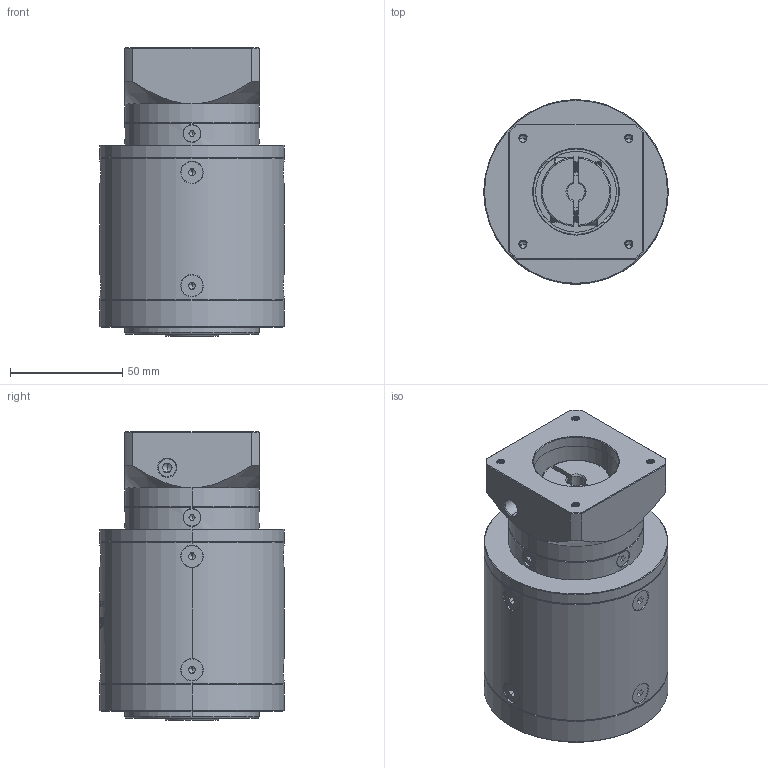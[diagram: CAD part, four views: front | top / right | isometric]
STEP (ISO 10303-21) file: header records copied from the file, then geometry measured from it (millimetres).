
FILE_DESCRIPTION (( 'STEP AP214' ), '1' );
FILE_NAME ('ZE80-K15-L3-8-38.1-47.14X47.14-M4.step', '2022-05-08T06:09:14', ( '' ), ( 'Microsoft' ), 'SwSTEP 2.0', 'SolidWorks 2016', '' );
FILE_SCHEMA (( 'AUTOMOTIVE_DESIGN' ));
Length unit declared in the file: millimetre
Products named in the file (1): ZE80-K15-L3-8-38.1-47.14X47.14-M4
Bounding box: 82 x 82 x 128.5 mm (x, y, z)
Volume: 534346.4 mm3; surface area: 67696.9 mm2
Topology: 18 solids, 18 shells, 2038 faces, 5372 edges, 3424 vertices
Faces by surface type: plane 936, cylinder 458, bspline 330, cone 300, torus 14
Entity records: 109934 total; most frequent: CARTESIAN_POINT 41049, ORIENTED_EDGE 10656, DIRECTION 8332, EDGE_CURVE 5328, VERTEX_POINT 3424, VECTOR 2856, LINE 2856, AXIS2_PLACEMENT_3D 2738
